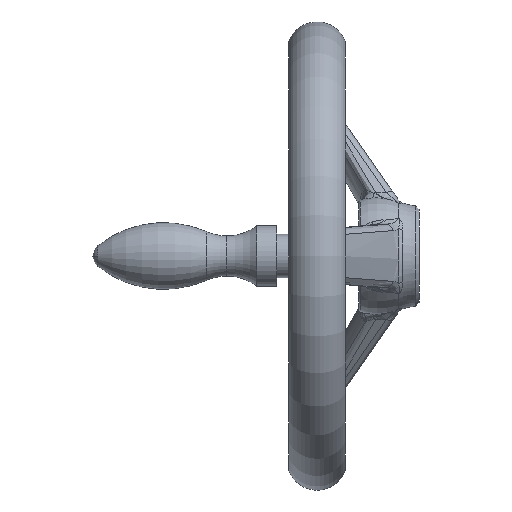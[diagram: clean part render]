
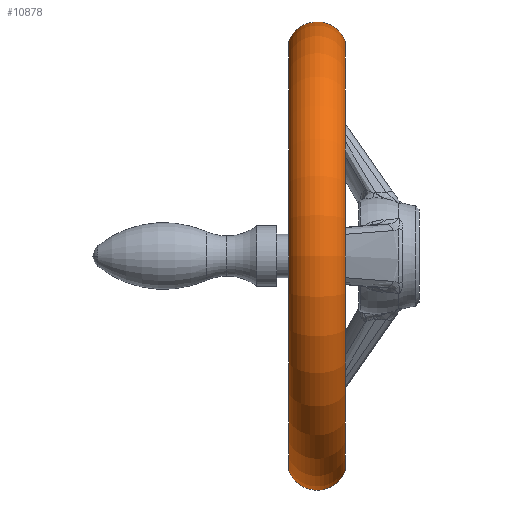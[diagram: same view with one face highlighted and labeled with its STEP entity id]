
A CAD part, left-side view. The second image highlights one B-rep face of the part: STEP entity #10878.
In plain terms, the highlighted toroidal (fillet/blend) face has major radius 60.979 mm and minor radius 9.021 mm.
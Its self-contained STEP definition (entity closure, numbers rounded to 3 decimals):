
#607 = CIRCLE ( 'NONE', #11029, 9.021 ) ;
#776 = ORIENTED_EDGE ( 'NONE', *, *, #10944, .F. ) ;
#990 = CIRCLE ( 'NONE', #8197, 64. ) ;
#1035 = EDGE_CURVE ( 'NONE', #8145, #8669, #8480, .T. ) ;
#1263 = EDGE_CURVE ( 'NONE', #10131, #8669, #607, .T. ) ;
#1890 = ORIENTED_EDGE ( 'NONE', *, *, #3149, .T. ) ;
#2125 = CARTESIAN_POINT ( 'NONE',  ( 0., 30.5, -60.979 ) ) ;
#2316 = ORIENTED_EDGE ( 'NONE', *, *, #1263, .T. ) ;
#2346 = CARTESIAN_POINT ( 'NONE',  ( 0., 22., 0. ) ) ;
#2467 = CARTESIAN_POINT ( 'NONE',  ( 0., 22., -64. ) ) ;
#2472 = AXIS2_PLACEMENT_3D ( 'NONE', #2346, #8306, #3184 ) ;
#2632 = CARTESIAN_POINT ( 'NONE',  ( 0., 39., 0. ) ) ;
#2708 = DIRECTION ( 'NONE',  ( 0., 0., -1. ) ) ;
#2787 = FACE_OUTER_BOUND ( 'NONE', #5965, .T. ) ;
#2814 = CARTESIAN_POINT ( 'NONE',  ( 0., 30.5, 60.979 ) ) ;
#2976 = DIRECTION ( 'NONE',  ( 0., 0., 1. ) ) ;
#3149 = EDGE_CURVE ( 'NONE', #10924, #10131, #990, .T. ) ;
#3184 = DIRECTION ( 'NONE',  ( 0., 0., -1. ) ) ;
#3472 = DIRECTION ( 'NONE',  ( 0., 0., -1. ) ) ;
#3656 = DIRECTION ( 'NONE',  ( 0., 0., -1. ) ) ;
#4407 = CARTESIAN_POINT ( 'NONE',  ( 0., 39., 64. ) ) ;
#4775 = CIRCLE ( 'NONE', #6401, 9.021 ) ;
#5045 = TOROIDAL_SURFACE ( 'NONE', #5820, 60.979, 9.021 ) ;
#5820 = AXIS2_PLACEMENT_3D ( 'NONE', #6083, #9491, #2708 ) ;
#5965 = EDGE_LOOP ( 'NONE', ( #776, #1890, #2316, #10645 ) ) ;
#6083 = CARTESIAN_POINT ( 'NONE',  ( 0., 30.5, 0. ) ) ;
#6401 = AXIS2_PLACEMENT_3D ( 'NONE', #2814, #8773, #3656 ) ;
#7680 = CARTESIAN_POINT ( 'NONE',  ( 0., 39., -64. ) ) ;
#8089 = DIRECTION ( 'NONE',  ( -1., 0., 0. ) ) ;
#8145 = VERTEX_POINT ( 'NONE', #10625 ) ;
#8197 = AXIS2_PLACEMENT_3D ( 'NONE', #2632, #8587, #3472 ) ;
#8306 = DIRECTION ( 'NONE',  ( 0., -1., 0. ) ) ;
#8480 = CIRCLE ( 'NONE', #2472, 64. ) ;
#8587 = DIRECTION ( 'NONE',  ( 0., -1., 0. ) ) ;
#8669 = VERTEX_POINT ( 'NONE', #2467 ) ;
#8773 = DIRECTION ( 'NONE',  ( 1., 0., 0. ) ) ;
#9491 = DIRECTION ( 'NONE',  ( 0., -1., 0. ) ) ;
#10131 = VERTEX_POINT ( 'NONE', #7680 ) ;
#10625 = CARTESIAN_POINT ( 'NONE',  ( 0., 22., 64. ) ) ;
#10645 = ORIENTED_EDGE ( 'NONE', *, *, #1035, .F. ) ;
#10878 = ADVANCED_FACE ( 'NONE', ( #2787 ), #5045, .T. ) ;
#10924 = VERTEX_POINT ( 'NONE', #4407 ) ;
#10944 = EDGE_CURVE ( 'NONE', #10924, #8145, #4775, .T. ) ;
#11029 = AXIS2_PLACEMENT_3D ( 'NONE', #2125, #8089, #2976 ) ;
